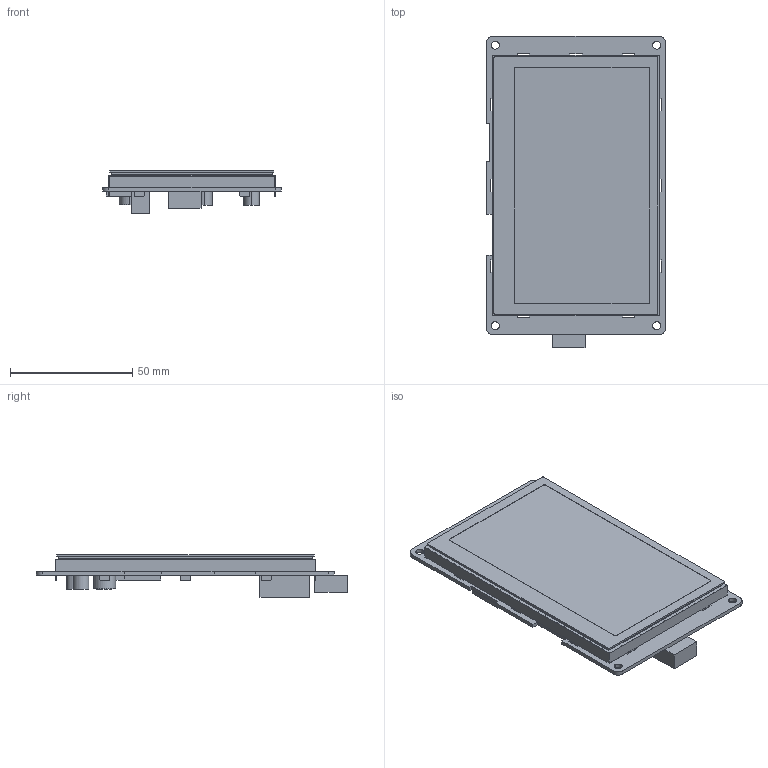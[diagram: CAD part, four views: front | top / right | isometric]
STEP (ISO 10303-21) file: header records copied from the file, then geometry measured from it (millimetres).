
FILE_DESCRIPTION((''),'2;1');
FILE_NAME('EKT043','2022-02-28T',('Administrator'),(''),'PRO/ENGINEER BY PARAMETRIC TECHNOLOGY CORPORATION, 2011310','PRO/ENGINEER BY PARAMETRIC TECHNOLOGY CORPORATION, 2011310','');
FILE_SCHEMA(('CONFIG_CONTROL_DESIGN','SHAPE_APPEARANCE_LAYERS_GROUPS'));
Length unit declared in the file: millimetre
Products named in the file (1): EKT043
Bounding box: 73.15 x 127.25 x 17.38 mm (x, y, z)
Volume: 50510.8 mm3; surface area: 52298.8 mm2
Topology: 1 solids, 1 shells, 314 faces, 895 edges, 587 vertices
Faces by surface type: plane 249, cylinder 65
Entity records: 12053 total; most frequent: CARTESIAN_POINT 1796, ORIENTED_EDGE 1790, DIRECTION 1653, EDGE_CURVE 895, VECTOR 765, LINE 765, VERTEX_POINT 587, AXIS2_PLACEMENT_3D 444
